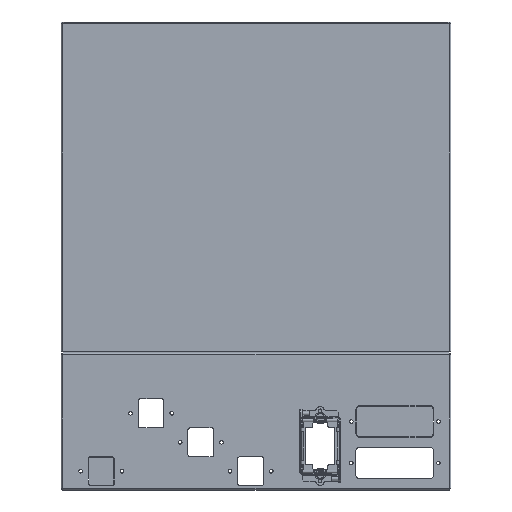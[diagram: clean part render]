
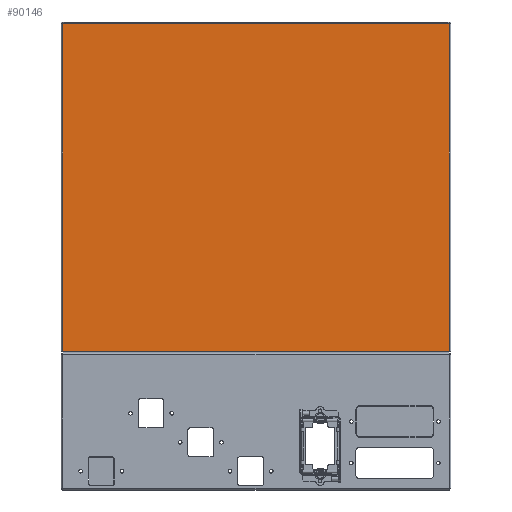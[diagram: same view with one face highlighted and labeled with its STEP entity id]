
A CAD part, top view. The second image highlights one B-rep face of the part: STEP entity #90146.
In plain terms, the highlighted planar face has unit normal (0, 0, 1).
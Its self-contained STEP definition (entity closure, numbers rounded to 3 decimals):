
#89481=CARTESIAN_POINT(' ',(-232.9,197.5,0.));
#89486=DIRECTION(' ',(0.,-1.,0.));
#89491=VECTOR(' ',#89486,1.);
#89496=LINE('',#89481,#89491);
#89501=CARTESIAN_POINT(' ',(-232.9,197.5,0.));
#89502=VERTEX_POINT(' ',#89501);
#89506=CARTESIAN_POINT(' ',(-232.9,-197.5,0.));
#89507=VERTEX_POINT(' ',#89506);
#89511=EDGE_CURVE(' ',#89502,#89507,#89496,.T.);
#90006=DIRECTION(' ',(0.,-0.,1.));
#90011=CARTESIAN_POINT(' ',(-232.9,-197.5,0.));
#90016=DIRECTION(' ',(1.,0.,-0.));
#90021=AXIS2_PLACEMENT_3D(' ',#90011,#90006,#90016);
#90026=PLANE('NONE',#90021);
#90031=ORIENTED_EDGE(' ',*,*,#89511,.T.);
#90036=CARTESIAN_POINT(' ',(-232.9,-197.5,0.));
#90041=DIRECTION(' ',(1.,0.,0.));
#90046=VECTOR(' ',#90041,1.);
#90051=LINE('',#90036,#90046);
#90056=CARTESIAN_POINT(' ',(232.9,-197.5,0.));
#90057=VERTEX_POINT(' ',#90056);
#90061=EDGE_CURVE(' ',#89507,#90057,#90051,.T.);
#90066=ORIENTED_EDGE(' ',*,*,#90061,.T.);
#90071=CARTESIAN_POINT(' ',(232.9,-197.5,0.));
#90076=DIRECTION(' ',(0.,1.,0.));
#90081=VECTOR(' ',#90076,1.);
#90086=LINE('',#90071,#90081);
#90091=CARTESIAN_POINT(' ',(232.9,197.5,0.));
#90092=VERTEX_POINT(' ',#90091);
#90096=EDGE_CURVE(' ',#90057,#90092,#90086,.T.);
#90101=ORIENTED_EDGE(' ',*,*,#90096,.T.);
#90106=CARTESIAN_POINT(' ',(232.9,197.5,0.));
#90111=DIRECTION(' ',(-1.,0.,0.));
#90116=VECTOR(' ',#90111,1.);
#90121=LINE('',#90106,#90116);
#90126=EDGE_CURVE(' ',#90092,#89502,#90121,.T.);
#90131=ORIENTED_EDGE(' ',*,*,#90126,.T.);
#90136=EDGE_LOOP(' ',(#90031,#90066,#90101,#90131));
#90141=FACE_OUTER_BOUND(' ',#90136,.T.);
#90146=ADVANCED_FACE('NONE',(#90141),#90026,.T.);
